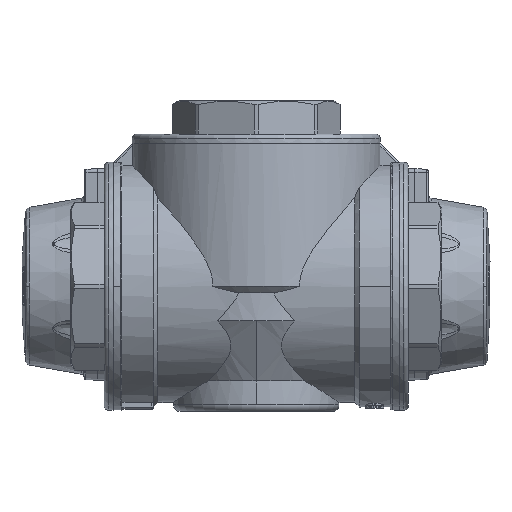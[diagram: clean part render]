
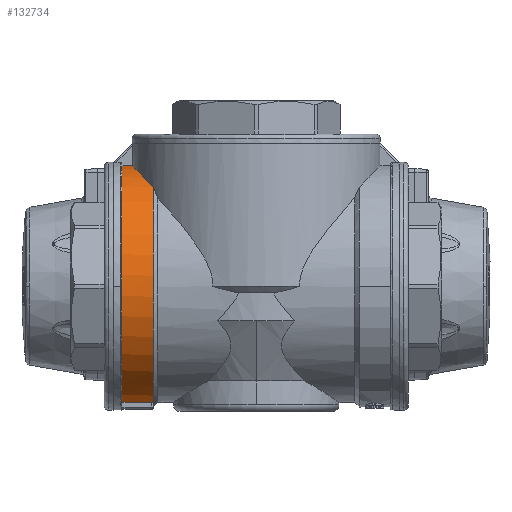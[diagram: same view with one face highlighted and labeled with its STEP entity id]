
A CAD part, front view. The second image highlights one B-rep face of the part: STEP entity #132734.
In plain terms, the highlighted cylindrical face has radius 54 mm (diameter 108 mm), a partial arc.
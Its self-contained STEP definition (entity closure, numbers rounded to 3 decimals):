
#340 = FACE_OUTER_BOUND ( 'NONE', #39334, .T. ) ;
#1502 = DIRECTION ( 'NONE',  ( 0., 0., 1. ) ) ;
#1629 = CARTESIAN_POINT ( 'NONE',  ( -53.057, -16.298, 51.485 ) ) ;
#3419 = ORIENTED_EDGE ( 'NONE', *, *, #109950, .F. ) ;
#6663 = CARTESIAN_POINT ( 'NONE',  ( -53., -15., -51.875 ) ) ;
#7562 = LINE ( 'NONE', #6663, #116304 ) ;
#8520 = ORIENTED_EDGE ( 'NONE', *, *, #129458, .F. ) ;
#10101 = CARTESIAN_POINT ( 'NONE',  ( -46.026, -14.259, -52.084 ) ) ;
#12176 = CARTESIAN_POINT ( 'NONE',  ( -53.865, -13.426, 52.318 ) ) ;
#16026 = DIRECTION ( 'NONE',  ( 0., 0., 1. ) ) ;
#20617 = CARTESIAN_POINT ( 'NONE',  ( -46., -14., -52.154 ) ) ;
#21665 = CIRCLE ( 'NONE', #96003, 54. ) ;
#22717 = CARTESIAN_POINT ( 'NONE',  ( -55.049, -7.487, 53.537 ) ) ;
#25221 = DIRECTION ( 'NONE',  ( -1., 0., 0. ) ) ;
#25730 = B_SPLINE_CURVE_WITH_KNOTS ( 'NONE', 3,
 ( #95041, #32844, #106604, #43331, #117165, #53847, #127680, #64476, #1629, #75181, #12176, #85788, #22717, #96417 ),
 .UNSPECIFIED., .F., .F.,
 ( 4, 2, 2, 2, 2, 2, 4 ),
 ( 0., 0.007, 0.015, 0.017, 0.019, 0.022, 0.03 ),
 .UNSPECIFIED. ) ;
#30724 = CARTESIAN_POINT ( 'NONE',  ( -47., -15., -51.875 ) ) ;
#32844 = CARTESIAN_POINT ( 'NONE',  ( -47.208, -29.263, 45.437 ) ) ;
#35412 = VERTEX_POINT ( 'NONE', #105214 ) ;
#35434 = EDGE_CURVE ( 'NONE', #93157, #108162, #25730, .T. ) ;
#35607 = AXIS2_PLACEMENT_3D ( 'NONE', #36723, #25221, #16026 ) ;
#36346 = ORIENTED_EDGE ( 'NONE', *, *, #116156, .T. ) ;
#36723 = CARTESIAN_POINT ( 'NONE',  ( -46., 0., 0. ) ) ;
#39334 = EDGE_LOOP ( 'NONE', ( #8520, #3419, #123645, #67684, #68425, #36346 ) ) ;
#42994 = CARTESIAN_POINT ( 'NONE',  ( -59.066, -5., 53.768 ) ) ;
#43331 = CARTESIAN_POINT ( 'NONE',  ( -50.373, -23.405, 48.716 ) ) ;
#43458 = B_SPLINE_CURVE_WITH_KNOTS ( 'NONE', 3,
 ( #30724, #83252, #51763, #125615, #62363, #136207, #73072, #10101, #83717, #20617 ),
 .UNSPECIFIED., .F., .F.,
 ( 4, 2, 2, 2, 4 ),
 ( 0., 0., 0.001, 0.001, 0.002 ),
 .UNSPECIFIED. ) ;
#46740 = VERTEX_POINT ( 'NONE', #117863 ) ;
#50520 = CARTESIAN_POINT ( 'NONE',  ( -60., -5., 53.768 ) ) ;
#51763 = CARTESIAN_POINT ( 'NONE',  ( -46.733, -14.973, -51.883 ) ) ;
#53847 = CARTESIAN_POINT ( 'NONE',  ( -52.311, -18.552, 50.717 ) ) ;
#56656 = DIRECTION ( 'NONE',  ( -1., 0., 0. ) ) ;
#59820 = LINE ( 'NONE', #42994, #116076 ) ;
#60311 = VERTEX_POINT ( 'NONE', #50520 ) ;
#62363 = CARTESIAN_POINT ( 'NONE',  ( -46.378, -14.794, -51.934 ) ) ;
#63821 = CIRCLE ( 'NONE', #83856, 54. ) ;
#64348 = DIRECTION ( 'NONE',  ( -1., 0., 0. ) ) ;
#64476 = CARTESIAN_POINT ( 'NONE',  ( -52.879, -16.865, 51.302 ) ) ;
#67684 = ORIENTED_EDGE ( 'NONE', *, *, #126837, .T. ) ;
#68425 = ORIENTED_EDGE ( 'NONE', *, *, #35434, .T. ) ;
#70958 = CYLINDRICAL_SURFACE ( 'NONE', #35607, 54. ) ;
#73072 = CARTESIAN_POINT ( 'NONE',  ( -46.123, -14.497, -52.018 ) ) ;
#75181 = CARTESIAN_POINT ( 'NONE',  ( -53.563, -14.584, 52.007 ) ) ;
#76215 = VERTEX_POINT ( 'NONE', #119302 ) ;
#83252 = CARTESIAN_POINT ( 'NONE',  ( -46.865, -15., -51.875 ) ) ;
#83717 = CARTESIAN_POINT ( 'NONE',  ( -46., -14.13, -52.119 ) ) ;
#83856 = AXIS2_PLACEMENT_3D ( 'NONE', #127550, #64348, #1502 ) ;
#85788 = CARTESIAN_POINT ( 'NONE',  ( -54.663, -9.901, 53.139 ) ) ;
#93157 = VERTEX_POINT ( 'NONE', #111756 ) ;
#95041 = CARTESIAN_POINT ( 'NONE',  ( -46., -31.052, 44.179 ) ) ;
#96003 = AXIS2_PLACEMENT_3D ( 'NONE', #119969, #56656, #130516 ) ;
#96417 = CARTESIAN_POINT ( 'NONE',  ( -55.274, -5., 53.768 ) ) ;
#105214 = CARTESIAN_POINT ( 'NONE',  ( -60., -15., -51.875 ) ) ;
#106604 = CARTESIAN_POINT ( 'NONE',  ( -48.329, -27.379, 46.599 ) ) ;
#108162 = VERTEX_POINT ( 'NONE', #113344 ) ;
#109950 = EDGE_CURVE ( 'NONE', #76215, #35412, #7562, .T. ) ;
#111756 = CARTESIAN_POINT ( 'NONE',  ( -46., -31.052, 44.179 ) ) ;
#112068 = DIRECTION ( 'NONE',  ( -1., 0., 0. ) ) ;
#113344 = CARTESIAN_POINT ( 'NONE',  ( -55.274, -5., 53.768 ) ) ;
#116076 = VECTOR ( 'NONE', #116820, 1000. ) ;
#116156 = EDGE_CURVE ( 'NONE', #108162, #60311, #59820, .T. ) ;
#116304 = VECTOR ( 'NONE', #112068, 1000. ) ;
#116820 = DIRECTION ( 'NONE',  ( -1., 0., 0. ) ) ;
#117165 = CARTESIAN_POINT ( 'NONE',  ( -51.298, -21.314, 49.672 ) ) ;
#117863 = CARTESIAN_POINT ( 'NONE',  ( -46., -14., -52.154 ) ) ;
#119302 = CARTESIAN_POINT ( 'NONE',  ( -47., -15., -51.875 ) ) ;
#119969 = CARTESIAN_POINT ( 'NONE',  ( -46., 0., 0. ) ) ;
#123645 = ORIENTED_EDGE ( 'NONE', *, *, #128406, .T. ) ;
#125615 = CARTESIAN_POINT ( 'NONE',  ( -46.489, -14.87, -51.912 ) ) ;
#126837 = EDGE_CURVE ( 'NONE', #46740, #93157, #21665, .T. ) ;
#127550 = CARTESIAN_POINT ( 'NONE',  ( -60., 0., 0. ) ) ;
#127680 = CARTESIAN_POINT ( 'NONE',  ( -52.506, -17.992, 50.918 ) ) ;
#128406 = EDGE_CURVE ( 'NONE', #76215, #46740, #43458, .T. ) ;
#129458 = EDGE_CURVE ( 'NONE', #35412, #60311, #63821, .T. ) ;
#130516 = DIRECTION ( 'NONE',  ( 0., 0., 1. ) ) ;
#132734 = ADVANCED_FACE ( 'NONE', ( #340 ), #70958, .T. ) ;
#136207 = CARTESIAN_POINT ( 'NONE',  ( -46.196, -14.608, -51.987 ) ) ;
